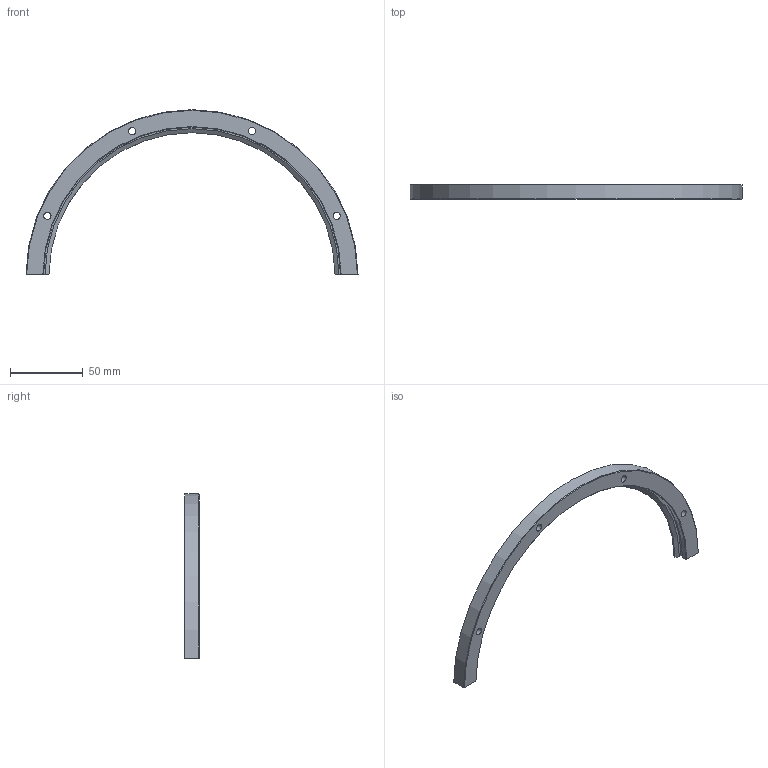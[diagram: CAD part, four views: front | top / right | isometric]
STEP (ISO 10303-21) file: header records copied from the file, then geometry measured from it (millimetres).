
FILE_DESCRIPTION(('STEP AP203'),'1');
FILE_NAME('RIV 228 R180.stp','2022-07-19T05:00:44',(' '),(' '),'Spatial InterOp 3D',' ',' ');
FILE_SCHEMA(('CONFIG_CONTROL_DESIGN'));
Length unit declared in the file: millimetre
Products named in the file (1): RIV 228 R180
Bounding box: 228.19 x 10 x 113.1 mm (x, y, z)
Volume: 42274.8 mm3; surface area: 17510 mm2
Topology: 1 solids, 1 shells, 26 faces, 63 edges, 43 vertices
Faces by surface type: cylinder 11, plane 10, cone 4, torus 1
Full cylindrical faces by diameter (mm): 5 x4, 8 x4
Entity records: 810 total; most frequent: CARTESIAN_POINT 159, DIRECTION 124, ORIENTED_EDGE 104, AXIS2_PLACEMENT_3D 55, EDGE_CURVE 52, EDGE_LOOP 46, VERTEX_POINT 40, FACE_OUTER_BOUND 34
